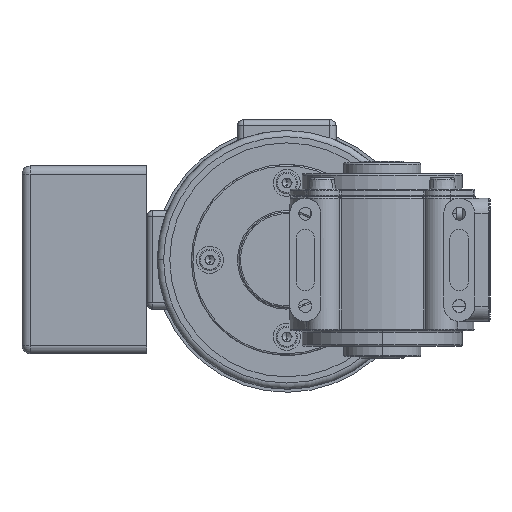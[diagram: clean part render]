
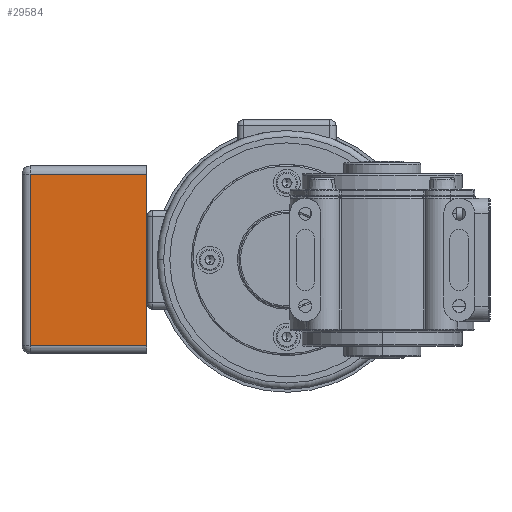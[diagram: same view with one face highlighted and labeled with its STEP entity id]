
A CAD part, left-side view. The second image highlights one B-rep face of the part: STEP entity #29584.
In plain terms, the highlighted planar face has unit normal (-1, 0, 0).
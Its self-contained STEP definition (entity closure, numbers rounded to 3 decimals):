
#3454 = CARTESIAN_POINT ( 'NONE',  ( -92.68, 67.979, 30.5 ) ) ;
#4386 = EDGE_CURVE ( 'NONE', #25696, #5921, #29132, .T. ) ;
#5506 = EDGE_CURVE ( 'NONE', #25906, #18831, #18149, .T. ) ;
#5856 = FACE_OUTER_BOUND ( 'NONE', #31934, .T. ) ;
#5921 = VERTEX_POINT ( 'NONE', #8363 ) ;
#6417 = ORIENTED_EDGE ( 'NONE', *, *, #27938, .T. ) ;
#6511 = DIRECTION ( 'NONE',  ( 0., -1., 0. ) ) ;
#8363 = CARTESIAN_POINT ( 'NONE',  ( -92.68, 105.807, -27.828 ) ) ;
#8456 = CARTESIAN_POINT ( 'NONE',  ( -92.68, 108.479, 30.5 ) ) ;
#9098 = LINE ( 'NONE', #11642, #20470 ) ;
#9293 = CARTESIAN_POINT ( 'NONE',  ( -92.68, 108.479, 27.828 ) ) ;
#10911 = LINE ( 'NONE', #9293, #19239 ) ;
#11520 = DIRECTION ( 'NONE',  ( 0., 1., 0. ) ) ;
#11642 = CARTESIAN_POINT ( 'NONE',  ( -92.68, 108.479, -27.828 ) ) ;
#12250 = CARTESIAN_POINT ( 'NONE',  ( -92.68, 67.979, -27.828 ) ) ;
#13296 = DIRECTION ( 'NONE',  ( 0., 0., 1. ) ) ;
#14958 = DIRECTION ( 'NONE',  ( 0., 0., -1. ) ) ;
#15692 = CARTESIAN_POINT ( 'NONE',  ( -92.68, 105.807, 27.828 ) ) ;
#15851 = DIRECTION ( 'NONE',  ( 0., 0., -1. ) ) ;
#15912 = ORIENTED_EDGE ( 'NONE', *, *, #17511, .T. ) ;
#15982 = VECTOR ( 'NONE', #13296, 1000. ) ;
#16574 = ORIENTED_EDGE ( 'NONE', *, *, #4386, .T. ) ;
#16893 = CARTESIAN_POINT ( 'NONE',  ( -92.68, 105.807, 30.5 ) ) ;
#17511 = EDGE_CURVE ( 'NONE', #18831, #25696, #10911, .T. ) ;
#18149 = LINE ( 'NONE', #3454, #15982 ) ;
#18831 = VERTEX_POINT ( 'NONE', #30073 ) ;
#19239 = VECTOR ( 'NONE', #11520, 1000. ) ;
#20470 = VECTOR ( 'NONE', #6511, 1000. ) ;
#21028 = DIRECTION ( 'NONE',  ( 1., 0., 0. ) ) ;
#22371 = PLANE ( 'NONE',  #25728 ) ;
#25696 = VERTEX_POINT ( 'NONE', #15692 ) ;
#25728 = AXIS2_PLACEMENT_3D ( 'NONE', #8456, #21028, #15851 ) ;
#25906 = VERTEX_POINT ( 'NONE', #12250 ) ;
#27938 = EDGE_CURVE ( 'NONE', #5921, #25906, #9098, .T. ) ;
#29132 = LINE ( 'NONE', #16893, #31727 ) ;
#29584 = ADVANCED_FACE ( 'NONE', ( #5856 ), #22371, .F. ) ;
#30073 = CARTESIAN_POINT ( 'NONE',  ( -92.68, 67.979, 27.828 ) ) ;
#31046 = ORIENTED_EDGE ( 'NONE', *, *, #5506, .T. ) ;
#31727 = VECTOR ( 'NONE', #14958, 1000. ) ;
#31934 = EDGE_LOOP ( 'NONE', ( #16574, #6417, #31046, #15912 ) ) ;
